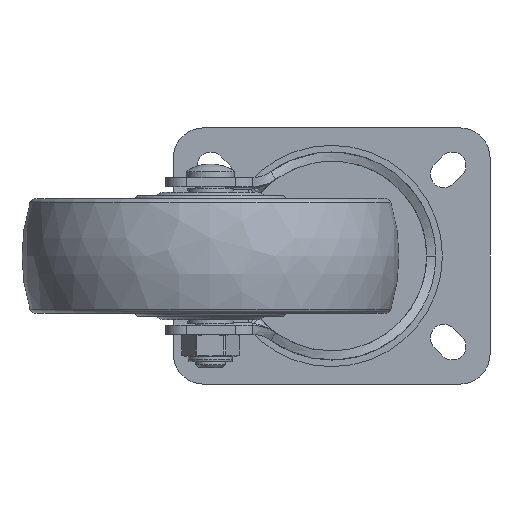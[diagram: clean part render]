
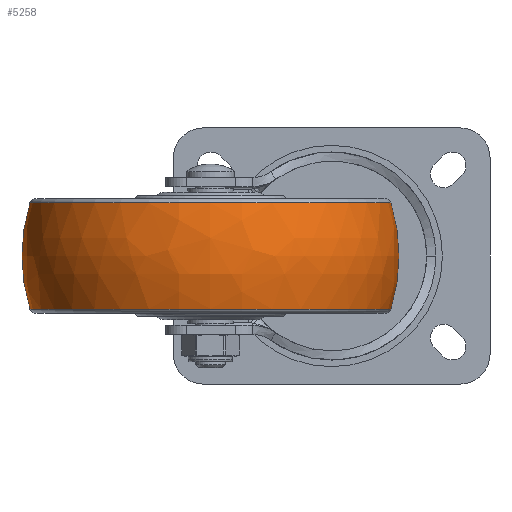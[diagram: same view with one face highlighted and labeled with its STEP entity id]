
A CAD part, front view. The second image highlights one B-rep face of the part: STEP entity #5258.
In plain terms, the highlighted free-form (B-spline) face has degree [3, 3] with [7, 4] control points.
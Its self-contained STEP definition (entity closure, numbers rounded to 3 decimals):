
#4620=CARTESIAN_POINT('',(0.,2.5,0.));
#4621=DIRECTION('',(0.,0.,1.));
#4622=DIRECTION('',(0.293,0.956,0.));
#4623=AXIS2_PLACEMENT_3D('',#4620,#4621,#4622);
#4625=CARTESIAN_POINT('',(0.,-2.5,0.));
#4626=DIRECTION('',(0.,0.,-1.));
#4627=DIRECTION('',(0.293,-0.956,0.));
#4628=AXIS2_PLACEMENT_3D('',#4625,#4626,#4627);
#4630=CARTESIAN_POINT('',(17.586,0.,0.));
#4631=DIRECTION('',(-1.,0.,0.));
#4632=DIRECTION('',(0.,1.,0.));
#4633=AXIS2_PLACEMENT_3D('',#4630,#4631,#4632);
#4645=CARTESIAN_POINT('',(-17.586,0.,0.));
#4646=DIRECTION('',(-1.,0.,0.));
#4647=DIRECTION('',(0.,1.,0.));
#4648=AXIS2_PLACEMENT_3D('',#4645,#4646,#4647);
#5069=CARTESIAN_POINT('',(17.586,59.865,0.));
#5070=CARTESIAN_POINT('',(-17.586,59.865,0.));
#5071=VERTEX_POINT('',#5069);
#5072=VERTEX_POINT('',#5070);
#5109=CARTESIAN_POINT('',(17.586,-59.865,
0.));
#5110=CARTESIAN_POINT('',(-17.586,-59.865,
0.));
#5111=VERTEX_POINT('',#5109);
#5112=VERTEX_POINT('',#5110);
#5221=CARTESIAN_POINT('',(-18.268,-59.534,
3.746));
#5222=CARTESIAN_POINT('',(-6.288,-63.355,
3.986));
#5223=CARTESIAN_POINT('',(6.288,-63.355,3.986));
#5224=CARTESIAN_POINT('',(18.268,-59.534,3.746));
#5225=CARTESIAN_POINT('',(-18.268,-61.839,
-32.891));
#5226=CARTESIAN_POINT('',(-6.288,-65.808,
-35.003));
#5227=CARTESIAN_POINT('',(6.288,-65.808,
-35.003));
#5228=CARTESIAN_POINT('',(18.268,-61.839,
-32.891));
#5229=CARTESIAN_POINT('',(-18.268,-36.709,
-59.652));
#5230=CARTESIAN_POINT('',(-6.288,-39.066,
-63.481));
#5231=CARTESIAN_POINT('',(6.288,-39.066,
-63.481));
#5232=CARTESIAN_POINT('',(18.268,-36.709,
-59.652));
#5233=CARTESIAN_POINT('',(-18.268,0.,
-59.652));
#5234=CARTESIAN_POINT('',(-6.288,0.,
-63.481));
#5235=CARTESIAN_POINT('',(6.288,0.,
-63.481));
#5236=CARTESIAN_POINT('',(18.268,0.,
-59.652));
#5237=CARTESIAN_POINT('',(-18.268,36.709,
-59.652));
#5238=CARTESIAN_POINT('',(-6.288,39.066,
-63.481));
#5239=CARTESIAN_POINT('',(6.288,39.066,-63.481));
#5240=CARTESIAN_POINT('',(18.268,36.709,-59.652));
#5241=CARTESIAN_POINT('',(-18.268,61.839,
-32.891));
#5242=CARTESIAN_POINT('',(-6.288,65.808,
-35.003));
#5243=CARTESIAN_POINT('',(6.288,65.808,-35.003));
#5244=CARTESIAN_POINT('',(18.268,61.839,-32.891));
#5245=CARTESIAN_POINT('',(-18.268,59.534,3.746));
#5246=CARTESIAN_POINT('',(-6.288,63.355,3.986));
#5247=CARTESIAN_POINT('',(6.288,63.355,3.986));
#5248=CARTESIAN_POINT('',(18.268,59.534,3.746));
#5249=(BOUNDED_SURFACE()B_SPLINE_SURFACE(3,3,((#5221,#5222,#5223,#5224),(#5225,
#5226,#5227,#5228),(#5229,#5230,#5231,#5232),(#5233,#5234,#5235,#5236),(#5237,
#5238,#5239,#5240),(#5241,#5242,#5243,#5244),(#5245,#5246,#5247,#5248)),
.UNSPECIFIED.,.F.,.F.,.F.)B_SPLINE_SURFACE_WITH_KNOTS((4,3,4),(4,4),(0.,1.,
2.),(0.,1.),.UNSPECIFIED.)GEOMETRIC_REPRESENTATION_ITEM()RATIONAL_B_SPLINE_SURFACE(((1.216,1.178,1.178,1.216),(
0.96,0.93,0.93,0.96),(
0.96,0.93,0.93,0.96),(
1.216,1.178,1.178,1.216),(
0.96,0.93,0.93,0.96),(
0.96,0.93,0.93,0.96),(
1.216,1.178,1.178,1.216)))REPRESENTATION_ITEM('')SURFACE());
#5250=ORIENTED_EDGE('',*,*,#5210,.T.);
#5252=ORIENTED_EDGE('',*,*,#5251,.T.);
#5253=ORIENTED_EDGE('',*,*,#5214,.F.);
#5255=ORIENTED_EDGE('',*,*,#5254,.F.);
#5256=EDGE_LOOP('',(#5250,#5252,#5253,#5255));
#5257=FACE_OUTER_BOUND('',#5256,.F.);
#4624=CIRCLE('',#4623,60.);
#4629=CIRCLE('',#4628,60.);
#4634=CIRCLE('',#4633,59.865);
#4649=CIRCLE('',#4648,59.865);
#5210=EDGE_CURVE('',#5071,#5072,#4624,.T.);
#5214=EDGE_CURVE('',#5111,#5112,#4629,.T.);
#5251=EDGE_CURVE('',#5072,#5112,#4649,.T.);
#5254=EDGE_CURVE('',#5071,#5111,#4634,.T.);
#5258=ADVANCED_FACE('',(#5257),#5249,.T.);
